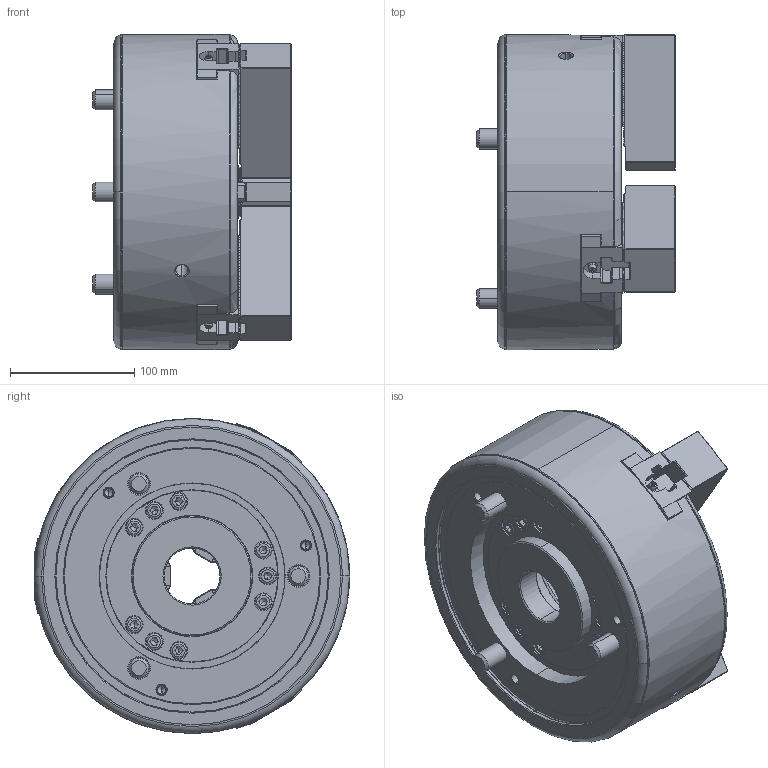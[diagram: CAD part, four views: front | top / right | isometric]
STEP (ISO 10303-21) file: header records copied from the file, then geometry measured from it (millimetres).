
FILE_DESCRIPTION (( 'STEP AP203' ), '1' );
FILE_NAME ('DEV-BR10-HUL.STEP', '2024-03-06T07:42:16', ( '' ), ( '' ), 'SwSTEP 2.0', 'SolidWorks 2022', '' );
FILE_SCHEMA (( 'CONFIG_CONTROL_DESIGN' ));
Length unit declared in the file: millimetre
Products named in the file (9): P31633-7 SB10B1 ソフトジョー_ﾃﾞﾌｫﾙﾄ(外観用); BR10-Nishi02 ドローナット_ﾃﾞﾌｫﾙﾄ(外観用); Part91^DEV-BR10-クミタテ; Bアナツキボタン M6×10_デフォルト; Bアナツキ M16×100; 61P367863-0 BB210 カバー; DEV-BR10-HUL; BR10-Nishi05 Plus-Tナット改1_61P417262-1 B-210 Tﾅｯﾄ-ﾃﾞﾌｫﾙﾄ; Bアナツキ M12×30
Assembly tree (21 placements, depth 2):
  DEV-BR10-HUL
    BR10-Nishi02 ドローナット_ﾃﾞﾌｫﾙﾄ(外観用)
    P31633-7 SB10B1 ソフトジョー_ﾃﾞﾌｫﾙﾄ(外観用)  x3
    BR10-Nishi05 Plus-Tナット改1_61P417262-1 B-210 Tﾅｯﾄ-ﾃﾞﾌｫﾙﾄ  x3
    61P367863-0 BB210 カバー
    Bアナツキ M12×30  x6
    Bアナツキボタン M6×10_デフォルト  x3
    Bアナツキ M16×100  x3
    Part91^DEV-BR10-クミタテ
Bounding box: 160.2 x 254.1 x 254 mm (x, y, z)
Volume: 4709412.2 mm3; surface area: 463298.5 mm2
Topology: 21 solids, 27 shells, 4080 faces, 11167 edges, 7210 vertices
Faces by surface type: plane 3080, cylinder 432, cone 346, bspline 120, torus 88, sphere 14
Entity records: 98132 total; most frequent: CARTESIAN_POINT 22671, ORIENTED_EDGE 16004, DIRECTION 14451, EDGE_CURVE 8002, LINE 6289, VECTOR 6289, VERTEX_POINT 5202, AXIS2_PLACEMENT_3D 4081
